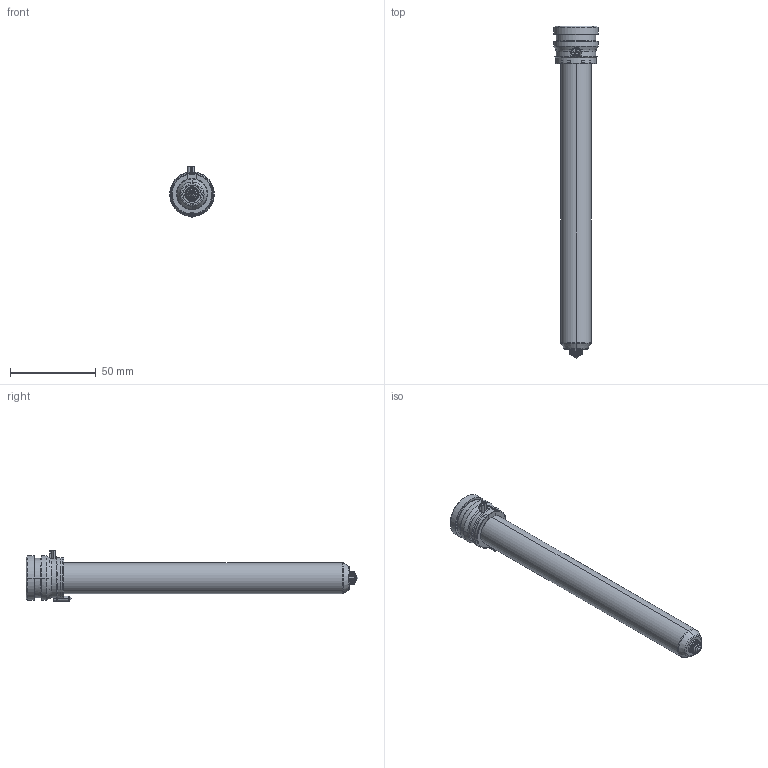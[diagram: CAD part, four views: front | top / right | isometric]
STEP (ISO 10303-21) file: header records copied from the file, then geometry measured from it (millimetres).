
FILE_DESCRIPTION((''),'2;1');
FILE_NAME('TH18176-A-1GLT-PK-JG','2023-12-14T',('umhib'),('Thermoplay S.p.A.'),'PRO/ENGINEER BY PARAMETRIC TECHNOLOGY CORPORATION, 2017170','PRO/ENGINEER BY PARAMETRIC TECHNOLOGY CORPORATION, 2017170','');
FILE_SCHEMA(('CONFIG_CONTROL_DESIGN'));
Length unit declared in the file: millimetre
Products named in the file (1): TH18176-A-1GLT-PK-JG
Bounding box: 26 x 194 x 29.5 mm (x, y, z)
Volume: 38534.5 mm3; surface area: 28233.5 mm2
Topology: 1 solids, 2 shells, 418 faces, 1085 edges, 675 vertices
Faces by surface type: cylinder 162, plane 90, cone 68, torus 62, bspline 24, sphere 10, extrusion 2
Entity records: 18142 total; most frequent: CARTESIAN_POINT 5862, DIRECTION 2187, ORIENTED_EDGE 2146, EDGE_CURVE 1075, AXIS2_PLACEMENT_3D 886, VERTEX_POINT 675, CIRCLE 493, EDGE_LOOP 443
